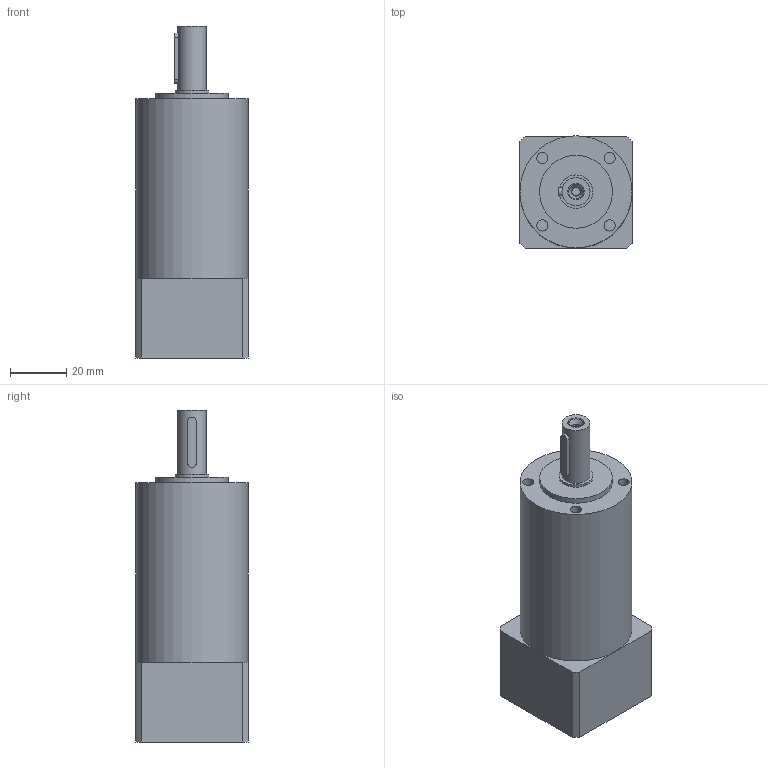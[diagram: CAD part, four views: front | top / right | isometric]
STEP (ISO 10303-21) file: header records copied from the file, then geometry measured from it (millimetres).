
FILE_DESCRIPTION((' Parasolid data model '),'2;1');
FILE_NAME('GSSL','1999-11-09T08:27:33+00:00',(' GSSL '),(' GSSL Pune '),'','GSSL Pune','Author');
FILE_SCHEMA(('CONFIG_CONTROL_DESIGN'));
Length unit declared in the file: millimetre
Bounding box: 40 x 40 x 118.5 mm (x, y, z)
Volume: 124771.5 mm3; surface area: 18363.5 mm2
Topology: 1 solids, 1 shells, 52 faces, 101 edges, 65 vertices
Faces by surface type: plane 27, cylinder 22, cone 3
Full cylindrical faces by diameter (mm): 3 x1, 3.183 x1, 4 x8, 8 x1, 10 x1, 12 x1, 26 x1, 30 x1, 40 x1
Entity records: 1364 total; most frequent: CARTESIAN_POINT 329, DIRECTION 200, ORIENTED_EDGE 154, AXIS2_PLACEMENT_3D 88, EDGE_LOOP 86, EDGE_CURVE 77, VERTEX_POINT 61, ADVANCED_FACE 52
